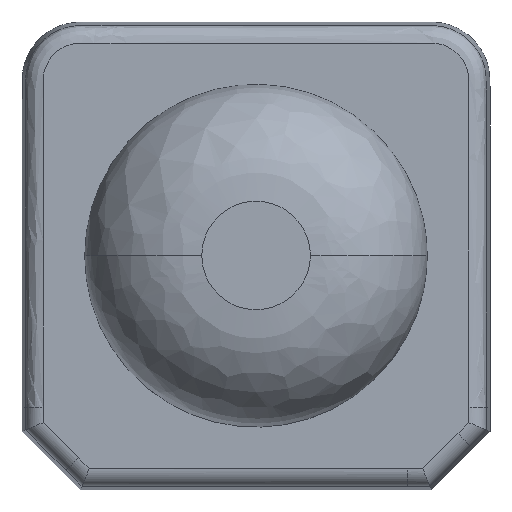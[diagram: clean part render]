
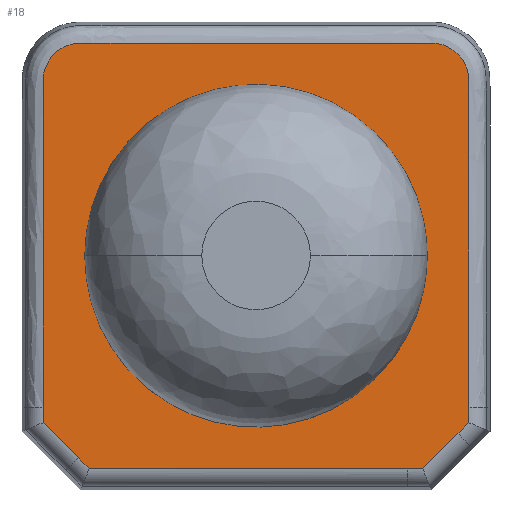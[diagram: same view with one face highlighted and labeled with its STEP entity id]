
A CAD part, top view. The second image highlights one B-rep face of the part: STEP entity #18.
In plain terms, the highlighted planar face has unit normal (0, 0, 1).
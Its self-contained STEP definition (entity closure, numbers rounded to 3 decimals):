
#14=FACE_BOUND('',#153,.T.);
#18=ADVANCED_FACE('',(#85,#14),#1004,.T.);
#85=FACE_OUTER_BOUND('',#152,.T.);
#152=EDGE_LOOP('',(#225,#226,#227,#228,#229,#230,#231,#232,#233));
#153=EDGE_LOOP('',(#234,#235));
#225=ORIENTED_EDGE('',*,*,#585,.T.);
#226=ORIENTED_EDGE('',*,*,#572,.T.);
#227=ORIENTED_EDGE('',*,*,#559,.T.);
#228=ORIENTED_EDGE('',*,*,#581,.T.);
#229=ORIENTED_EDGE('',*,*,#560,.T.);
#230=ORIENTED_EDGE('',*,*,#579,.T.);
#231=ORIENTED_EDGE('',*,*,#565,.T.);
#232=ORIENTED_EDGE('',*,*,#561,.T.);
#233=ORIENTED_EDGE('',*,*,#562,.T.);
#234=ORIENTED_EDGE('',*,*,#715,.F.);
#235=ORIENTED_EDGE('',*,*,#712,.T.);
#559=EDGE_CURVE('',#897,#898,#724,.T.);
#560=EDGE_CURVE('',#899,#900,#725,.T.);
#561=EDGE_CURVE('',#902,#903,#726,.T.);
#562=EDGE_CURVE('',#903,#895,#727,.T.);
#565=EDGE_CURVE('',#901,#902,#730,.T.);
#572=EDGE_CURVE('',#896,#897,#735,.T.);
#579=EDGE_CURVE('',#900,#901,#740,.T.);
#581=EDGE_CURVE('',#898,#899,#845,.T.);
#585=EDGE_CURVE('',#895,#896,#743,.T.);
#712=EDGE_CURVE('',#893,#894,#879,.T.);
#715=EDGE_CURVE('',#893,#894,#882,.T.);
#724=B_SPLINE_CURVE_WITH_KNOTS('',1,(#1749,#1750),.UNSPECIFIED.,.F.,.F.,
(2,2),(0.,0.261),.UNSPECIFIED.);
#725=B_SPLINE_CURVE_WITH_KNOTS('',1,(#1751,#1752),.UNSPECIFIED.,.F.,.F.,
(2,2),(0.,0.261),.UNSPECIFIED.);
#726=B_SPLINE_CURVE_WITH_KNOTS('',1,(#1753,#1754),.UNSPECIFIED.,.F.,.F.,
(2,2),(0.,5.438),.UNSPECIFIED.);
#727=B_SPLINE_CURVE_WITH_KNOTS('',1,(#1755,#1756),.UNSPECIFIED.,.F.,.F.,
(2,2),(0.,0.261),.UNSPECIFIED.);
#730=B_SPLINE_CURVE_WITH_KNOTS('',1,(#1769,#1770),.UNSPECIFIED.,.F.,.F.,
(2,2),(-0.261,0.),.UNSPECIFIED.);
#735=B_SPLINE_CURVE_WITH_KNOTS('',1,(#1801,#1802),.UNSPECIFIED.,.F.,.F.,
(2,2),(-0.261,0.),.UNSPECIFIED.);
#740=B_SPLINE_CURVE_WITH_KNOTS('',1,(#1825,#1826),.UNSPECIFIED.,.F.,.F.,
(2,2),(-0.853,0.),.UNSPECIFIED.);
#743=B_SPLINE_CURVE_WITH_KNOTS('',1,(#1879,#1880),.UNSPECIFIED.,.F.,.F.,
(2,2),(-0.853,0.),.UNSPECIFIED.);
#845=(
BOUNDED_CURVE()
B_SPLINE_CURVE(3,(#1838,#1839,#1840,#1841,#1842,#1843,#1844,#1845,#1846,
#1847,#1848,#1849,#1850,#1851,#1852,#1853,#1854,#1855,#1856,#1857,#1858,
#1859,#1860,#1861,#1862,#1863,#1864,#1865,#1866,#1867,#1868,#1869,#1870,
#1871),.UNSPECIFIED.,.F.,.F.)
B_SPLINE_CURVE_WITH_KNOTS((4,3,3,3,3,3,3,3,3,3,3,4),(-19.193,
-13.605,-13.338,-13.084,-12.83,
-12.596,-6.596,-6.33,-6.076,
-5.822,-5.588,0.),.UNSPECIFIED.)
CURVE()
GEOMETRIC_REPRESENTATION_ITEM()
RATIONAL_B_SPLINE_CURVE((1.,1.,1.,1.,
1.,1.,1.,1.,
1.,1.,1.,1.,
1.,1.,1.,1.,
1.,1.,1.,1.,
1.,1.,1.,1.,
1.,1.,1.,1.,
1.,1.,1.,1.,
1.,1.))
REPRESENTATION_ITEM('')
);
#879=(
BOUNDED_CURVE()
B_SPLINE_CURVE(2,(#2270,#2271,#2272,#2273,#2274),.UNSPECIFIED.,.F.,.F.)
B_SPLINE_CURVE_WITH_KNOTS((3,2,3),(-11.709,-5.854,0.),
 .UNSPECIFIED.)
CURVE()
GEOMETRIC_REPRESENTATION_ITEM()
RATIONAL_B_SPLINE_CURVE((1.,0.707,1.,0.707,1.))
REPRESENTATION_ITEM('')
);
#882=(
BOUNDED_CURVE()
B_SPLINE_CURVE(2,(#2279,#2280,#2281,#2282,#2283),.UNSPECIFIED.,.F.,.F.)
B_SPLINE_CURVE_WITH_KNOTS((3,2,3),(0.,5.854,
11.709),.UNSPECIFIED.)
CURVE()
GEOMETRIC_REPRESENTATION_ITEM()
RATIONAL_B_SPLINE_CURVE((1.,0.707,1.,0.707,1.))
REPRESENTATION_ITEM('')
);
#893=VERTEX_POINT('',#1622);
#894=VERTEX_POINT('',#1623);
#895=VERTEX_POINT('',#1624);
#896=VERTEX_POINT('',#1625);
#897=VERTEX_POINT('',#1626);
#898=VERTEX_POINT('',#1627);
#899=VERTEX_POINT('',#1628);
#900=VERTEX_POINT('',#1629);
#901=VERTEX_POINT('',#1630);
#902=VERTEX_POINT('',#1631);
#903=VERTEX_POINT('',#1632);
#1004=PLANE('',#1149);
#1149=AXIS2_PLACEMENT_3D('',#1279,#1205,$);
#1205=DIRECTION('',(0.,0.,1.));
#1279=CARTESIAN_POINT('',(-4.366,-4.366,0.7));
#1622=CARTESIAN_POINT('',(-2.927,0.,0.7));
#1623=CARTESIAN_POINT('',(2.927,0.,0.7));
#1624=CARTESIAN_POINT('',(2.85,-3.638,0.7));
#1625=CARTESIAN_POINT('',(3.453,-3.035,0.7));
#1626=CARTESIAN_POINT('',(3.638,-2.85,0.7));
#1627=CARTESIAN_POINT('',(3.638,-2.588,0.7));
#1628=CARTESIAN_POINT('',(-3.638,-2.588,0.7));
#1629=CARTESIAN_POINT('',(-3.638,-2.85,0.7));
#1630=CARTESIAN_POINT('',(-3.035,-3.453,0.7));
#1631=CARTESIAN_POINT('',(-2.85,-3.638,0.7));
#1632=CARTESIAN_POINT('',(2.588,-3.638,0.7));
#1749=CARTESIAN_POINT('',(3.638,-2.85,0.7));
#1750=CARTESIAN_POINT('',(3.638,-2.588,0.7));
#1751=CARTESIAN_POINT('',(-3.638,-2.588,0.7));
#1752=CARTESIAN_POINT('',(-3.638,-2.85,0.7));
#1753=CARTESIAN_POINT('',(-2.85,-3.638,0.7));
#1754=CARTESIAN_POINT('',(2.588,-3.638,0.7));
#1755=CARTESIAN_POINT('',(2.588,-3.638,0.7));
#1756=CARTESIAN_POINT('',(2.85,-3.638,0.7));
#1769=CARTESIAN_POINT('',(-3.035,-3.453,0.7));
#1770=CARTESIAN_POINT('',(-2.85,-3.638,0.7));
#1801=CARTESIAN_POINT('',(3.453,-3.035,0.7));
#1802=CARTESIAN_POINT('',(3.638,-2.85,0.7));
#1825=CARTESIAN_POINT('',(-3.638,-2.85,0.7));
#1826=CARTESIAN_POINT('',(-3.035,-3.453,0.7));
#1838=CARTESIAN_POINT('',(3.638,-2.588,0.7));
#1839=CARTESIAN_POINT('',(3.638,-0.726,0.7));
#1840=CARTESIAN_POINT('',(3.638,1.137,0.7));
#1841=CARTESIAN_POINT('',(3.638,3.,0.7));
#1842=CARTESIAN_POINT('',(3.638,3.088,0.7));
#1843=CARTESIAN_POINT('',(3.619,3.176,0.7));
#1844=CARTESIAN_POINT('',(3.584,3.257,0.7));
#1845=CARTESIAN_POINT('',(3.55,3.334,0.7));
#1846=CARTESIAN_POINT('',(3.5,3.404,0.7));
#1847=CARTESIAN_POINT('',(3.439,3.462,0.7));
#1848=CARTESIAN_POINT('',(3.378,3.52,0.7));
#1849=CARTESIAN_POINT('',(3.306,3.566,0.7));
#1850=CARTESIAN_POINT('',(3.227,3.596,0.7));
#1851=CARTESIAN_POINT('',(3.155,3.623,0.7));
#1852=CARTESIAN_POINT('',(3.077,3.638,0.7));
#1853=CARTESIAN_POINT('',(3.,3.638,0.7));
#1854=CARTESIAN_POINT('',(1.,3.638,0.7));
#1855=CARTESIAN_POINT('',(-1.,3.638,0.7));
#1856=CARTESIAN_POINT('',(-3.,3.638,0.7));
#1857=CARTESIAN_POINT('',(-3.088,3.638,0.7));
#1858=CARTESIAN_POINT('',(-3.176,3.619,0.7));
#1859=CARTESIAN_POINT('',(-3.257,3.584,0.7));
#1860=CARTESIAN_POINT('',(-3.334,3.55,0.7));
#1861=CARTESIAN_POINT('',(-3.404,3.5,0.7));
#1862=CARTESIAN_POINT('',(-3.462,3.439,0.7));
#1863=CARTESIAN_POINT('',(-3.52,3.378,0.7));
#1864=CARTESIAN_POINT('',(-3.566,3.306,0.7));
#1865=CARTESIAN_POINT('',(-3.596,3.227,0.7));
#1866=CARTESIAN_POINT('',(-3.623,3.155,0.7));
#1867=CARTESIAN_POINT('',(-3.638,3.077,0.7));
#1868=CARTESIAN_POINT('',(-3.638,3.,0.7));
#1869=CARTESIAN_POINT('',(-3.638,1.137,0.7));
#1870=CARTESIAN_POINT('',(-3.638,-0.726,0.7));
#1871=CARTESIAN_POINT('',(-3.638,-2.588,0.7));
#1879=CARTESIAN_POINT('',(2.85,-3.638,0.7));
#1880=CARTESIAN_POINT('',(3.453,-3.035,0.7));
#2270=CARTESIAN_POINT('',(-2.927,0.,0.7));
#2271=CARTESIAN_POINT('',(-2.927,2.927,0.7));
#2272=CARTESIAN_POINT('',(0.,2.927,0.7));
#2273=CARTESIAN_POINT('',(2.927,2.927,0.7));
#2274=CARTESIAN_POINT('',(2.927,0.,0.7));
#2279=CARTESIAN_POINT('',(-2.927,0.,0.7));
#2280=CARTESIAN_POINT('',(-2.927,-2.927,0.7));
#2281=CARTESIAN_POINT('',(0.,-2.927,0.7));
#2282=CARTESIAN_POINT('',(2.927,-2.927,0.7));
#2283=CARTESIAN_POINT('',(2.927,0.,0.7));
